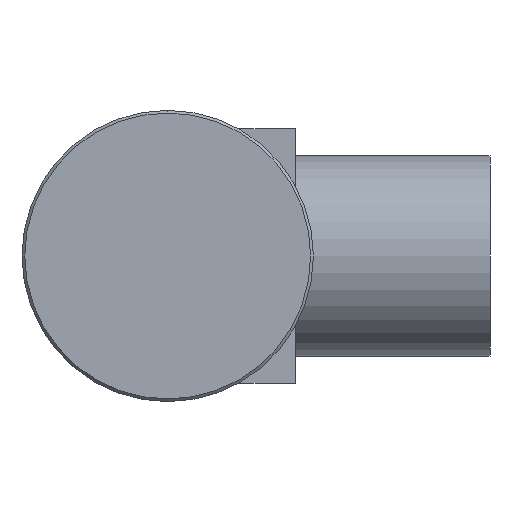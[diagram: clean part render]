
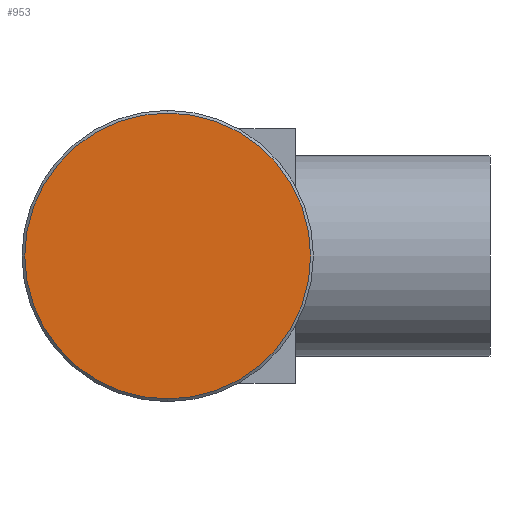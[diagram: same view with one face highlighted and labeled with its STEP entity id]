
A CAD part, left-side view. The second image highlights one B-rep face of the part: STEP entity #953.
In plain terms, the highlighted planar face has unit normal (-1, 0, 0).
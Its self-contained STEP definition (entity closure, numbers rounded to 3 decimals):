
#60 = DIRECTION ( 'NONE',  ( 0., 0., -1. ) ) ;
#184 = VERTEX_POINT ( 'NONE', #1385 ) ;
#414 = CARTESIAN_POINT ( 'NONE',  ( 0., 0., -15.7 ) ) ;
#482 = DIRECTION ( 'NONE',  ( 0., 0., 1. ) ) ;
#525 = PLANE ( 'NONE',  #658 ) ;
#545 = ORIENTED_EDGE ( 'NONE', *, *, #858, .T. ) ;
#621 = DIRECTION ( 'NONE',  ( 1., 0., 0. ) ) ;
#658 = AXIS2_PLACEMENT_3D ( 'NONE', #1436, #621, #60 ) ;
#726 = EDGE_CURVE ( 'NONE', #954, #184, #754, .T. ) ;
#735 = ORIENTED_EDGE ( 'NONE', *, *, #726, .T. ) ;
#754 = CIRCLE ( 'NONE', #890, 15.7 ) ;
#824 = DIRECTION ( 'NONE',  ( -1., 0., 0. ) ) ;
#858 = EDGE_CURVE ( 'NONE', #184, #954, #1208, .T. ) ;
#859 = DIRECTION ( 'NONE',  ( -1., 0., 0. ) ) ;
#866 = EDGE_LOOP ( 'NONE', ( #735, #545 ) ) ;
#890 = AXIS2_PLACEMENT_3D ( 'NONE', #1030, #824, #482 ) ;
#953 = ADVANCED_FACE ( 'NONE', ( #1416 ), #525, .F. ) ;
#954 = VERTEX_POINT ( 'NONE', #414 ) ;
#1030 = CARTESIAN_POINT ( 'NONE',  ( 0., 0., 0. ) ) ;
#1112 = AXIS2_PLACEMENT_3D ( 'NONE', #1197, #859, #1424 ) ;
#1197 = CARTESIAN_POINT ( 'NONE',  ( 0., 0., 0. ) ) ;
#1208 = CIRCLE ( 'NONE', #1112, 15.7 ) ;
#1385 = CARTESIAN_POINT ( 'NONE',  ( 0., 0., 15.7 ) ) ;
#1416 = FACE_OUTER_BOUND ( 'NONE', #866, .T. ) ;
#1424 = DIRECTION ( 'NONE',  ( 0., 0., 1. ) ) ;
#1436 = CARTESIAN_POINT ( 'NONE',  ( 0., 0., 0. ) ) ;
